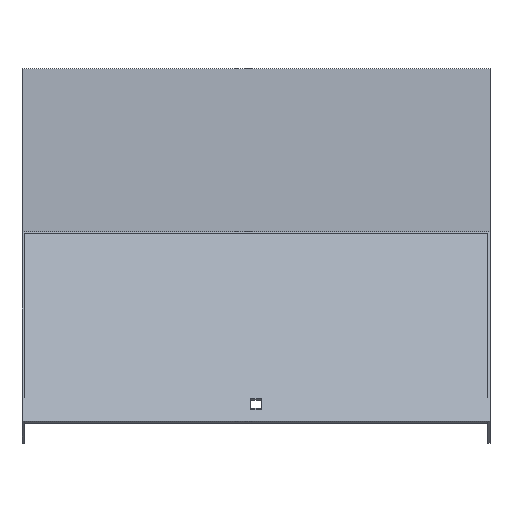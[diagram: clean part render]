
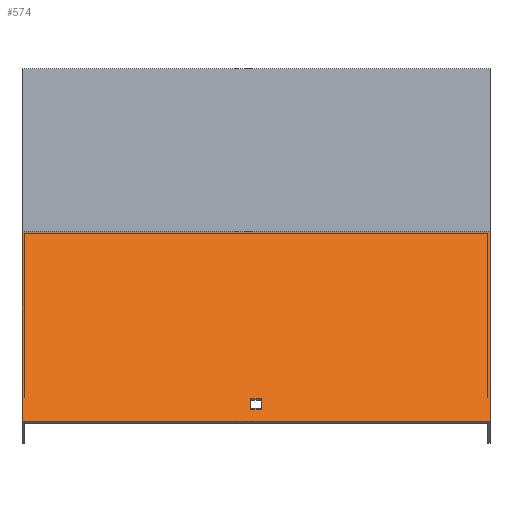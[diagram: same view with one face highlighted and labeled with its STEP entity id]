
A CAD part, top view. The second image highlights one B-rep face of the part: STEP entity #574.
In plain terms, the highlighted planar face has unit normal (0, 0.707, 0.707).
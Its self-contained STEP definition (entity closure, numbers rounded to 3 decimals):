
#9 = VECTOR ( 'NONE', #508, 1000. ) ;
#24 = ORIENTED_EDGE ( 'NONE', *, *, #727, .T. ) ;
#25 = ORIENTED_EDGE ( 'NONE', *, *, #320, .T. ) ;
#41 = LINE ( 'NONE', #568, #9 ) ;
#60 = EDGE_LOOP ( 'NONE', ( #25, #490, #24, #238 ) ) ;
#66 = CARTESIAN_POINT ( 'NONE',  ( -151.5, -209.008, 552.874 ) ) ;
#70 = VERTEX_POINT ( 'NONE', #66 ) ;
#75 = CARTESIAN_POINT ( 'NONE',  ( 3.25, -88.8, 432.666 ) ) ;
#154 = CARTESIAN_POINT ( 'NONE',  ( 151.5, -88.8, 432.666 ) ) ;
#162 = VERTEX_POINT ( 'NONE', #820 ) ;
#188 = DIRECTION ( 'NONE',  ( -1., 0., 0. ) ) ;
#204 = ORIENTED_EDGE ( 'NONE', *, *, #377, .T. ) ;
#209 = DIRECTION ( 'NONE',  ( 0., -0.707, 0.707 ) ) ;
#214 = FACE_OUTER_BOUND ( 'NONE', #791, .T. ) ;
#222 = LINE ( 'NONE', #491, #443 ) ;
#223 = DIRECTION ( 'NONE',  ( 0., -0.707, 0.707 ) ) ;
#234 = LINE ( 'NONE', #293, #369 ) ;
#237 = EDGE_CURVE ( 'NONE', #845, #277, #552, .T. ) ;
#238 = ORIENTED_EDGE ( 'NONE', *, *, #296, .T. ) ;
#243 = CARTESIAN_POINT ( 'NONE',  ( 151.5, -209.008, 552.874 ) ) ;
#277 = VERTEX_POINT ( 'NONE', #243 ) ;
#282 = DIRECTION ( 'NONE',  ( 0., 0.707, -0.707 ) ) ;
#284 = VERTEX_POINT ( 'NONE', #394 ) ;
#293 = CARTESIAN_POINT ( 'NONE',  ( -151.5, -88.8, 432.666 ) ) ;
#294 = CARTESIAN_POINT ( 'NONE',  ( 151.5, -88.8, 432.666 ) ) ;
#296 = EDGE_CURVE ( 'NONE', #367, #388, #512, .T. ) ;
#320 = EDGE_CURVE ( 'NONE', #388, #162, #222, .T. ) ;
#330 = LINE ( 'NONE', #75, #784 ) ;
#360 = PLANE ( 'NONE',  #716 ) ;
#364 = EDGE_CURVE ( 'NONE', #277, #70, #461, .T. ) ;
#367 = VERTEX_POINT ( 'NONE', #728 ) ;
#369 = VECTOR ( 'NONE', #752, 1000. ) ;
#377 = EDGE_CURVE ( 'NONE', #284, #70, #234, .T. ) ;
#380 = ORIENTED_EDGE ( 'NONE', *, *, #644, .T. ) ;
#381 = VECTOR ( 'NONE', #188, 1000. ) ;
#388 = VERTEX_POINT ( 'NONE', #487 ) ;
#394 = CARTESIAN_POINT ( 'NONE',  ( -151.5, -85.987, 429.853 ) ) ;
#397 = CARTESIAN_POINT ( 'NONE',  ( 151.5, -209.008, 552.874 ) ) ;
#418 = VECTOR ( 'NONE', #223, 1000. ) ;
#443 = VECTOR ( 'NONE', #470, 1000. ) ;
#461 = LINE ( 'NONE', #397, #381 ) ;
#466 = CARTESIAN_POINT ( 'NONE',  ( 151.5, -85.987, 429.853 ) ) ;
#470 = DIRECTION ( 'NONE',  ( 1., 0., 0. ) ) ;
#487 = CARTESIAN_POINT ( 'NONE',  ( -3.25, -194.159, 538.025 ) ) ;
#489 = DIRECTION ( 'NONE',  ( 0., -0.707, -0.707 ) ) ;
#490 = ORIENTED_EDGE ( 'NONE', *, *, #811, .T. ) ;
#491 = CARTESIAN_POINT ( 'NONE',  ( 151.5, -194.159, 538.025 ) ) ;
#494 = FACE_BOUND ( 'NONE', #60, .T. ) ;
#508 = DIRECTION ( 'NONE',  ( -1., 0., 0. ) ) ;
#512 = LINE ( 'NONE', #768, #591 ) ;
#515 = ORIENTED_EDGE ( 'NONE', *, *, #364, .F. ) ;
#539 = CARTESIAN_POINT ( 'NONE',  ( 3.25, -200.523, 544.389 ) ) ;
#552 = LINE ( 'NONE', #294, #418 ) ;
#553 = LINE ( 'NONE', #816, #580 ) ;
#562 = DIRECTION ( 'NONE',  ( 0., 0.707, -0.707 ) ) ;
#566 = ORIENTED_EDGE ( 'NONE', *, *, #237, .F. ) ;
#568 = CARTESIAN_POINT ( 'NONE',  ( 151.5, -200.523, 544.389 ) ) ;
#574 = ADVANCED_FACE ( 'NONE', ( #494, #214 ), #360, .F. ) ;
#580 = VECTOR ( 'NONE', #831, 1000. ) ;
#591 = VECTOR ( 'NONE', #562, 1000. ) ;
#644 = EDGE_CURVE ( 'NONE', #845, #284, #553, .T. ) ;
#716 = AXIS2_PLACEMENT_3D ( 'NONE', #154, #489, #282 ) ;
#727 = EDGE_CURVE ( 'NONE', #835, #367, #41, .T. ) ;
#728 = CARTESIAN_POINT ( 'NONE',  ( -3.25, -200.523, 544.389 ) ) ;
#752 = DIRECTION ( 'NONE',  ( 0., -0.707, 0.707 ) ) ;
#768 = CARTESIAN_POINT ( 'NONE',  ( -3.25, -88.8, 432.666 ) ) ;
#784 = VECTOR ( 'NONE', #209, 1000. ) ;
#791 = EDGE_LOOP ( 'NONE', ( #204, #515, #566, #380 ) ) ;
#811 = EDGE_CURVE ( 'NONE', #162, #835, #330, .T. ) ;
#816 = CARTESIAN_POINT ( 'NONE',  ( 151.5, -85.987, 429.853 ) ) ;
#820 = CARTESIAN_POINT ( 'NONE',  ( 3.25, -194.159, 538.025 ) ) ;
#831 = DIRECTION ( 'NONE',  ( -1., 0., 0. ) ) ;
#835 = VERTEX_POINT ( 'NONE', #539 ) ;
#845 = VERTEX_POINT ( 'NONE', #466 ) ;
